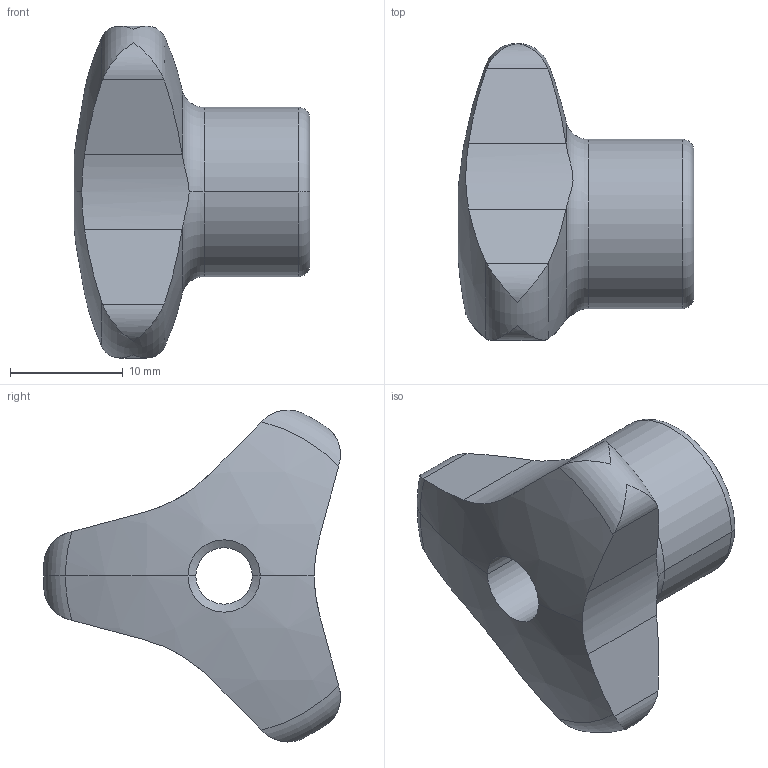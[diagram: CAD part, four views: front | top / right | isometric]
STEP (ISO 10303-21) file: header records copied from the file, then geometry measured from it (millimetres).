
FILE_DESCRIPTION (( 'STEP AP214' ), '1' );
FILE_NAME ('5345-32-M6-D.step', '2019-06-13T08:48:29', ( 'user' ), ( '' ), 'SwSTEP 2.0', 'SolidWorks 2019', '' );
FILE_SCHEMA (( 'AUTOMOTIVE_DESIGN' ));
Length unit declared in the file: millimetre
Products named in the file (1): 5345-32-M6-D
Bounding box: 20.87 x 26.32 x 29.41 mm (x, y, z)
Volume: 5000.6 mm3; surface area: 2267.1 mm2
Topology: 1 solids, 1 shells, 39 faces, 107 edges, 69 vertices
Faces by surface type: cylinder 16, torus 8, plane 7, sphere 6, cone 2
Entity records: 1517 total; most frequent: CARTESIAN_POINT 502, ORIENTED_EDGE 214, DIRECTION 193, EDGE_CURVE 107, AXIS2_PLACEMENT_3D 86, VERTEX_POINT 69, CIRCLE 46, B_SPLINE_CURVE_WITH_KNOTS 40
